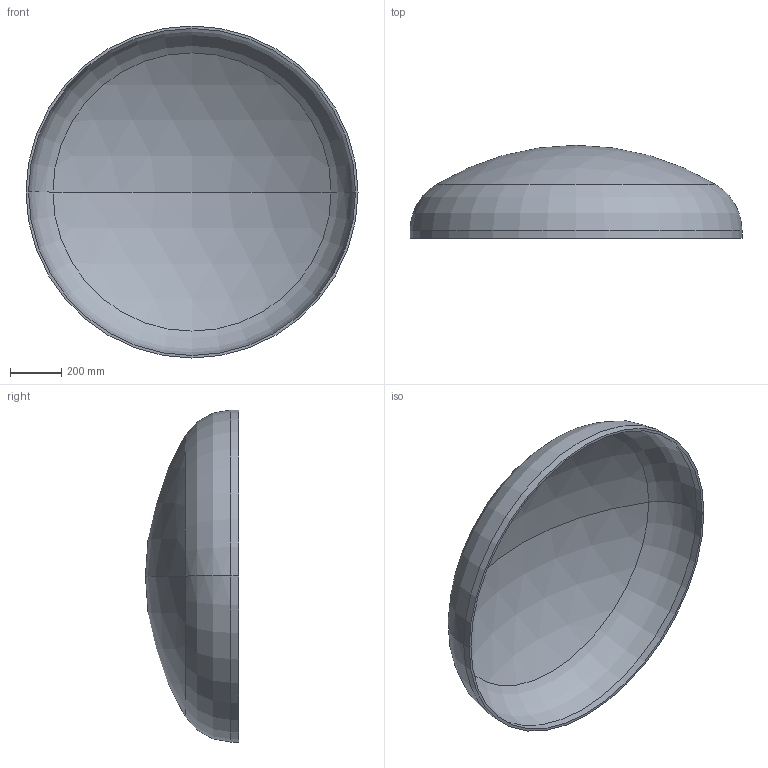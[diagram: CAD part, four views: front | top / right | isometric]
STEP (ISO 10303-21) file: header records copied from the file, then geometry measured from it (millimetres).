
FILE_DESCRIPTION (( 'STEP AP203' ), '1' );
FILE_NAME ('DIN 28013 Korbbogenform_-_Boden DIN 28013 - 1300 x 30 - I - s=10.step', '2016-07-01T09:42:37', ( '' ), ( '' ), 'SwSTEP 2.0', 'SolidWorks 2013', '' );
FILE_SCHEMA (( 'CONFIG_CONTROL_DESIGN' ));
Length unit declared in the file: millimetre
Products named in the file (1): DIN 28013 Korbbogenform_-_Boden DIN 28013 - 1300 x 30 - I - s=10
Bounding box: 1300 x 364.46 x 1300 mm (x, y, z)
Volume: 19409577.8 mm3; surface area: 3922650.1 mm2
Topology: 1 solids, 1 shells, 13 faces, 24 edges, 14 vertices
Faces by surface type: torus 4, cylinder 4, sphere 4, plane 1
Entity records: 407 total; most frequent: DIRECTION 72, CARTESIAN_POINT 52, ORIENTED_EDGE 48, AXIS2_PLACEMENT_3D 34, EDGE_CURVE 24, CIRCLE 20, VERTEX_POINT 14, EDGE_LOOP 14
